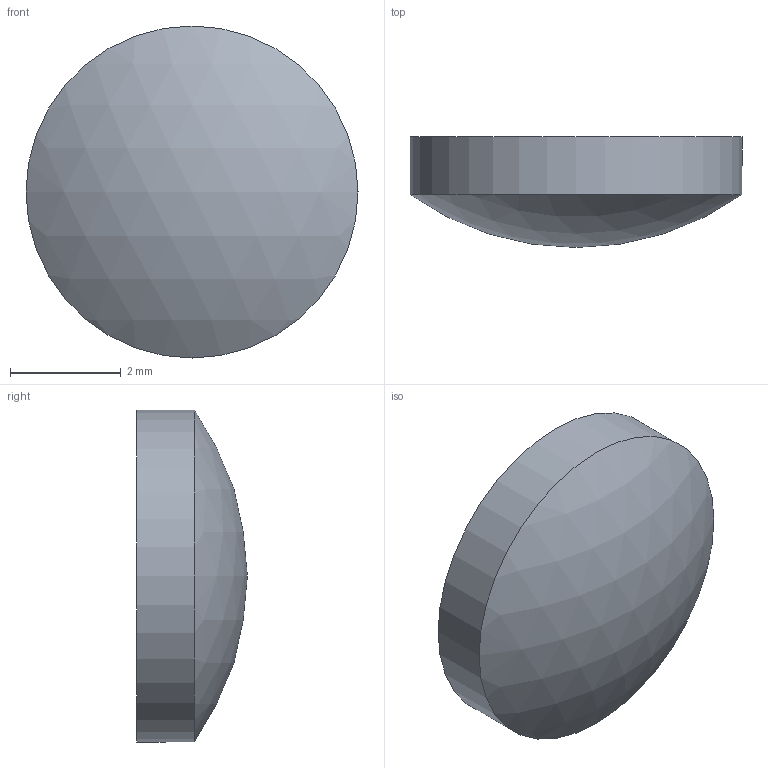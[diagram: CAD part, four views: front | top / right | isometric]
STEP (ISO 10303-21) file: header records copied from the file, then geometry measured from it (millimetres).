
FILE_DESCRIPTION((''),'2;1');
FILE_NAME('Y:\メカ関係\2能登便\素子ﾓﾃﾞﾙ（角屋さま野中さま⇒川島）\5月分\1_球面平凸レンズ-BK7\SLB-P\φ6\SLB-06-10P\SLB-06-10P.stp','2009-05-08T09:28:10',('usernoto011'),(''),'Autodesk Inventor 2008','Autodesk Inventor 2008','');
FILE_SCHEMA(('AUTOMOTIVE_DESIGN { 1 0 10303 214 1 1 1 1 }'));
Length unit declared in the file: millimetre
Products named in the file (1): SLB-06-10P
Bounding box: 6 x 2 x 6 mm (x, y, z)
Volume: 43.5 mm3; surface area: 79.1 mm2
Topology: 1 solids, 1 shells, 3 faces, 3 edges, 2 vertices
Faces by surface type: sphere 1, cylinder 1, plane 1
Full cylindrical faces by diameter (mm): 6 x1
Entity records: 80 total; most frequent: DIRECTION 12, CARTESIAN_POINT 8, AXIS2_PLACEMENT_3D 6, ORIENTED_EDGE 4, EDGE_LOOP 4, FACE_OUTER_BOUND 3, ADVANCED_FACE 3, DIMENSIONAL_EXPONENTS 2
